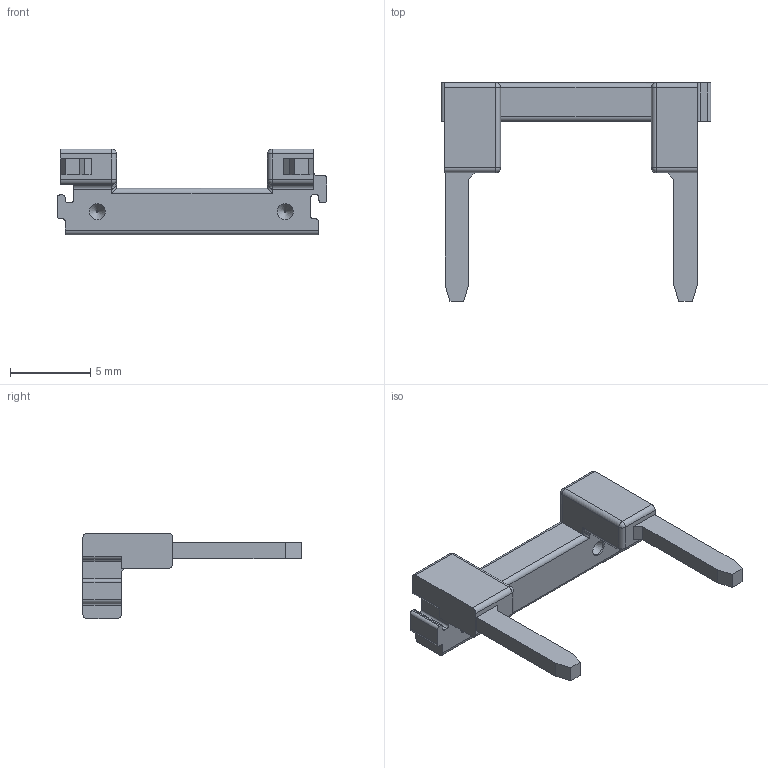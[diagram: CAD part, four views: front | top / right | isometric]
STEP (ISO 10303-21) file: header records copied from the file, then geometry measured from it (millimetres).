
FILE_DESCRIPTION(/* description */ (''),/* implementation_level */ '2;1');
FILE_NAME(/* name */ 'RF-SCP08F-2P.stp',/* time_stamp */ '2022-07-06T15:58:13+08:00',/* author */ (''),/* organization */ (''),/* preprocessor_version */ 'ST-DEVELOPER v16.7',/* originating_system */ 'SIEMENS PLM Software NX 12.0',/* authorisation */ '');
FILE_SCHEMA (('AUTOMOTIVE_DESIGN { 1 0 10303 214 3 1 1 1 }'));
Length unit declared in the file: millimetre
Products named in the file (1): RF-SCP08F-2P
Bounding box: 16.8 x 13.6 x 5.35 mm (x, y, z)
Volume: 212.6 mm3; surface area: 385.2 mm2
Topology: 1 solids, 1 shells, 105 faces, 269 edges, 164 vertices
Faces by surface type: plane 51, cylinder 42, sphere 6, cone 4, bspline 2
Full cylindrical faces by diameter (mm): 1 x4
Entity records: 3099 total; most frequent: CARTESIAN_POINT 573, DIRECTION 535, ORIENTED_EDGE 502, EDGE_CURVE 251, AXIS2_PLACEMENT_3D 184, LINE 167, VECTOR 167, VERTEX_POINT 162
